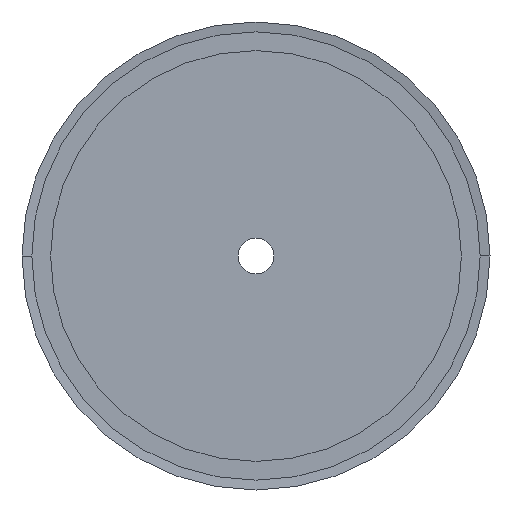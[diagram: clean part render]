
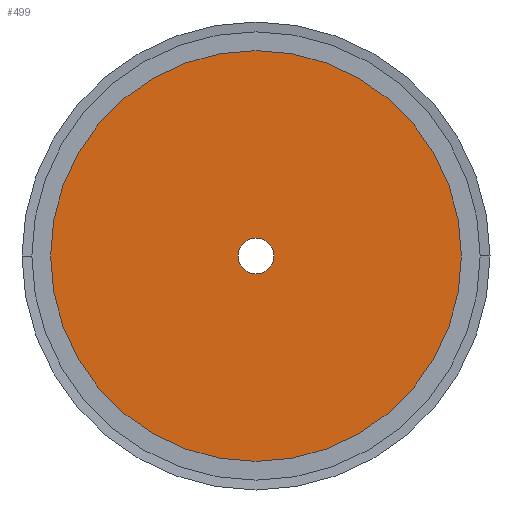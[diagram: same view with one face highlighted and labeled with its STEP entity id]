
A CAD part, left-side view. The second image highlights one B-rep face of the part: STEP entity #499.
In plain terms, the highlighted planar face has unit normal (-1, 0, 0).
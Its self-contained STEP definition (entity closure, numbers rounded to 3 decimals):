
#499 = ADVANCED_FACE( '', ( #1353, #1354 ), #1355, .T. );
#1353 = FACE_BOUND( '', #2208, .T. );
#1354 = FACE_OUTER_BOUND( '', #2209, .T. );
#1355 = PLANE( '', #2210 );
#2208 = EDGE_LOOP( '', ( #5663, #5664 ) );
#2209 = EDGE_LOOP( '', ( #5665, #5666 ) );
#2210 = AXIS2_PLACEMENT_3D( '', #5667, #5668, #5669 );
#5663 = ORIENTED_EDGE( '', *, *, #6756, .F. );
#5664 = ORIENTED_EDGE( '', *, *, #5685, .F. );
#5665 = ORIENTED_EDGE( '', *, *, #5673, .T. );
#5666 = ORIENTED_EDGE( '', *, *, #6761, .T. );
#5667 = CARTESIAN_POINT( '', ( 0., 31.25, 0. ) );
#5668 = DIRECTION( '', ( -1., 0., 0. ) );
#5669 = DIRECTION( '', ( 0., 1., 0. ) );
#5673 = EDGE_CURVE( '', #6763, #6767, #6769, .T. );
#5685 = EDGE_CURVE( '', #6791, #6787, #6793, .T. );
#6756 = EDGE_CURVE( '', #6787, #6791, #8520, .T. );
#6761 = EDGE_CURVE( '', #6767, #6763, #8525, .T. );
#6763 = VERTEX_POINT( '', #8527 );
#6767 = VERTEX_POINT( '', #8532 );
#6769 = CIRCLE( '', #8535, 57.5 );
#6787 = VERTEX_POINT( '', #8557 );
#6791 = VERTEX_POINT( '', #8562 );
#6793 = CIRCLE( '', #8565, 5. );
#8520 = CIRCLE( '', #10864, 5. );
#8525 = CIRCLE( '', #10869, 57.5 );
#8527 = CARTESIAN_POINT( '', ( 0., 57.5, 0. ) );
#8532 = CARTESIAN_POINT( '', ( 0., -57.5, 0. ) );
#8535 = AXIS2_PLACEMENT_3D( '', #10875, #10876, #10877 );
#8557 = CARTESIAN_POINT( '', ( 0., 5., 0. ) );
#8562 = CARTESIAN_POINT( '', ( 0., -5., 0. ) );
#8565 = AXIS2_PLACEMENT_3D( '', #10899, #10900, #10901 );
#10864 = AXIS2_PLACEMENT_3D( '', #12968, #12969, #12970 );
#10869 = AXIS2_PLACEMENT_3D( '', #12983, #12984, #12985 );
#10875 = CARTESIAN_POINT( '', ( 0., 0., 0. ) );
#10876 = DIRECTION( '', ( -1., 0., 0. ) );
#10877 = DIRECTION( '', ( 0., 1., 0. ) );
#10899 = CARTESIAN_POINT( '', ( 0., 0., 0. ) );
#10900 = DIRECTION( '', ( -1., 0., 0. ) );
#10901 = DIRECTION( '', ( 0., 1., 0. ) );
#12968 = CARTESIAN_POINT( '', ( 0., 0., 0. ) );
#12969 = DIRECTION( '', ( -1., 0., 0. ) );
#12970 = DIRECTION( '', ( 0., 1., 0. ) );
#12983 = CARTESIAN_POINT( '', ( 0., 0., 0. ) );
#12984 = DIRECTION( '', ( -1., 0., 0. ) );
#12985 = DIRECTION( '', ( 0., 1., 0. ) );
